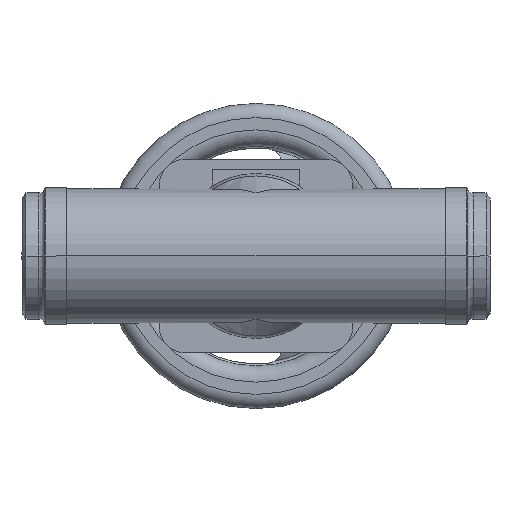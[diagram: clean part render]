
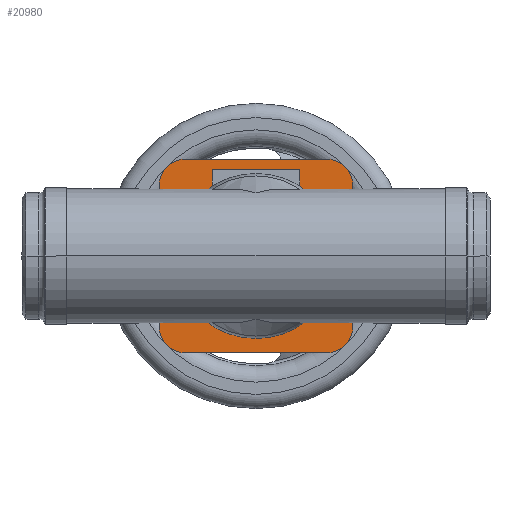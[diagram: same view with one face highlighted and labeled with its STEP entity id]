
A CAD part, front view. The second image highlights one B-rep face of the part: STEP entity #20980.
In plain terms, the highlighted planar face has unit normal (0, -1, 0).
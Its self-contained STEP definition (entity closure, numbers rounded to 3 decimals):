
#1270=CARTESIAN_POINT('',(115.,73.22,-40.5));
#1280=VERTEX_POINT('',#1270);
#2140=CARTESIAN_POINT('',(148.006,73.22,
-23.47));
#2150=VERTEX_POINT('',#2140);
#2180=CARTESIAN_POINT('',(115.,73.22,0.));
#2190=DIRECTION('',(0.,-1.,0.));
#2200=DIRECTION('',(0.,0.,1.));
#2210=AXIS2_PLACEMENT_3D('',#2180,#2190,#2200);
#2220=CIRCLE('',#2210,40.5);
#2230=EDGE_CURVE('',#1280,#2150,#2220,.T.);
#11090=CARTESIAN_POINT('',(162.648,73.22,
-9.082));
#11100=VERTEX_POINT('',#11090);
#11130=CARTESIAN_POINT('',(128.073,73.22,0.));
#11140=DIRECTION('',(0.,1.,0.));
#11150=DIRECTION('',(1.,0.,0.));
#11160=AXIS2_PLACEMENT_3D('',#11130,#11140,#11150);
#11170=ELLIPSE('',#11160,36.551,28.);
#11180=EDGE_CURVE('',#11100,#2150,#11170,.T.);
#17470=CARTESIAN_POINT('',(162.648,73.22,
9.082));
#17480=VERTEX_POINT('',#17470);
#17510=CARTESIAN_POINT('',(162.648,73.22,
8.551));
#17520=DIRECTION('',(0.,0.,1.));
#17530=VECTOR('',#17520,1.);
#17540=LINE('',#17510,#17530);
#17550=CARTESIAN_POINT('',(162.648,73.22,
34.648));
#17560=VERTEX_POINT('',#17550);
#17570=EDGE_CURVE('',#17480,#17560,#17540,.T.);
#17790=CARTESIAN_POINT('',(162.648,73.22,
-34.648));
#17800=VERTEX_POINT('',#17790);
#17830=CARTESIAN_POINT('',(162.648,73.22,
8.551));
#17840=DIRECTION('',(0.,0.,1.));
#17850=VECTOR('',#17840,1.);
#17860=LINE('',#17830,#17850);
#17870=EDGE_CURVE('',#17800,#11100,#17860,.T.);
#18090=CARTESIAN_POINT('',(67.352,73.22,
34.648));
#18100=VERTEX_POINT('',#18090);
#18280=CARTESIAN_POINT('',(80.352,73.22,
47.648));
#18290=VERTEX_POINT('',#18280);
#18320=CARTESIAN_POINT('',(80.352,73.22,
34.648));
#18330=DIRECTION('',(0.,-1.,0.));
#18340=DIRECTION('',(-1.,0.,0.));
#18350=AXIS2_PLACEMENT_3D('',#18320,#18330,#18340);
#18360=CIRCLE('',#18350,13.);
#18370=EDGE_CURVE('',#18290,#18100,#18360,.T.);
#18600=CARTESIAN_POINT('',(67.352,73.22,
-34.648));
#18610=VERTEX_POINT('',#18600);
#18710=CARTESIAN_POINT('',(67.352,73.22,
43.199));
#18720=DIRECTION('',(0.,0.,-1.));
#18730=VECTOR('',#18720,1.);
#18740=LINE('',#18710,#18730);
#18750=EDGE_CURVE('',#18100,#18610,#18740,.T.);
#18960=CARTESIAN_POINT('',(80.352,73.22,
-47.648));
#18970=VERTEX_POINT('',#18960);
#19100=CARTESIAN_POINT('',(80.352,73.22,
-34.648));
#19110=DIRECTION('',(0.,-1.,0.));
#19120=DIRECTION('',(0.,0.,-1.));
#19130=AXIS2_PLACEMENT_3D('',#19100,#19110,#19120);
#19140=CIRCLE('',#19130,13.);
#19150=EDGE_CURVE('',#18610,#18970,#19140,.T.);
#19380=CARTESIAN_POINT('',(149.648,73.22,
-47.648));
#19390=VERTEX_POINT('',#19380);
#19490=CARTESIAN_POINT('',(97.676,73.22,
-47.648));
#19500=DIRECTION('',(1.,0.,0.));
#19510=VECTOR('',#19500,1.);
#19520=LINE('',#19490,#19510);
#19530=EDGE_CURVE('',#18970,#19390,#19520,.T.);
#19790=CARTESIAN_POINT('',(149.648,73.22,
-34.648));
#19800=DIRECTION('',(0.,-1.,0.));
#19810=DIRECTION('',(1.,0.,0.));
#19820=AXIS2_PLACEMENT_3D('',#19790,#19800,#19810);
#19830=CIRCLE('',#19820,13.);
#19840=EDGE_CURVE('',#19390,#17800,#19830,.T.);
#20050=CARTESIAN_POINT('',(149.648,73.22,
47.648));
#20060=VERTEX_POINT('',#20050);
#20190=CARTESIAN_POINT('',(149.648,73.22,
34.648));
#20200=DIRECTION('',(0.,-1.,0.));
#20210=DIRECTION('',(0.,0.,1.));
#20220=AXIS2_PLACEMENT_3D('',#20190,#20200,#20210);
#20230=CIRCLE('',#20220,13.);
#20240=EDGE_CURVE('',#17560,#20060,#20230,.T.);
#20490=CARTESIAN_POINT('',(132.324,73.22,
47.648));
#20500=DIRECTION('',(-1.,0.,0.));
#20510=VECTOR('',#20500,1.);
#20520=LINE('',#20490,#20510);
#20530=EDGE_CURVE('',#20060,#18290,#20520,.T.);
#20650=CARTESIAN_POINT('',(115.,73.22,51.75));
#20660=DIRECTION('',(0.,-1.,0.));
#20670=DIRECTION('',(0.,0.,1.));
#20680=AXIS2_PLACEMENT_3D('',#20650,#20660,#20670);
#20690=PLANE('',#20680);
#20700=CARTESIAN_POINT('',(148.006,73.22,
23.47));
#20710=VERTEX_POINT('',#20700);
#20720=CARTESIAN_POINT('',(115.,73.22,40.5));
#20730=VERTEX_POINT('',#20720);
#20740=EDGE_CURVE('',#20710,#20730,#2220,.T.);
#20750=ORIENTED_EDGE('',*,*,#20740,.F.);
#20760=EDGE_CURVE('',#20730,#1280,#2220,.T.);
#20770=ORIENTED_EDGE('',*,*,#20760,.F.);
#20780=ORIENTED_EDGE('',*,*,#2230,.F.);
#20790=ORIENTED_EDGE('',*,*,#11180,.T.);
#20800=ORIENTED_EDGE('',*,*,#17870,.T.);
#20810=ORIENTED_EDGE('',*,*,#19840,.T.);
#20820=ORIENTED_EDGE('',*,*,#19530,.T.);
#20830=ORIENTED_EDGE('',*,*,#19150,.T.);
#20840=ORIENTED_EDGE('',*,*,#18750,.T.);
#20850=ORIENTED_EDGE('',*,*,#18370,.T.);
#20860=ORIENTED_EDGE('',*,*,#20530,.T.);
#20870=ORIENTED_EDGE('',*,*,#20240,.T.);
#20880=ORIENTED_EDGE('',*,*,#17570,.T.);
#20890=CARTESIAN_POINT('',(128.073,73.22,0.));
#20900=DIRECTION('',(0.,1.,0.));
#20910=DIRECTION('',(1.,0.,0.));
#20920=AXIS2_PLACEMENT_3D('',#20890,#20900,#20910);
#20930=ELLIPSE('',#20920,36.551,28.);
#20940=EDGE_CURVE('',#20710,#17480,#20930,.T.);
#20950=ORIENTED_EDGE('',*,*,#20940,.T.);
#20960=EDGE_LOOP('',(#20950,#20880,#20870,#20860,#20850,#20840,#20830,
#20820,#20810,#20800,#20790,#20780,#20770,#20750));
#20970=FACE_OUTER_BOUND('',#20960,.T.);
#20980=ADVANCED_FACE('',(#20970),#20690,.T.);
